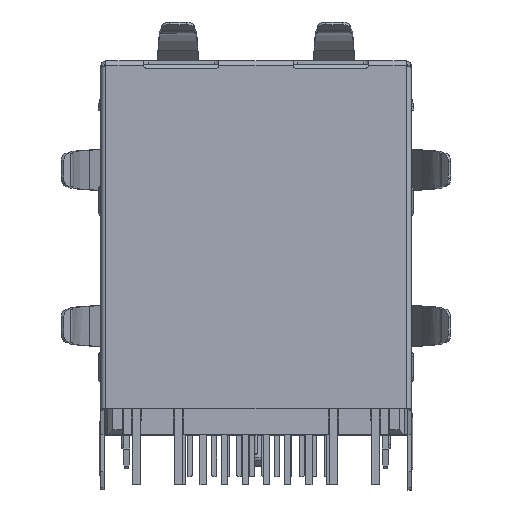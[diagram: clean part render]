
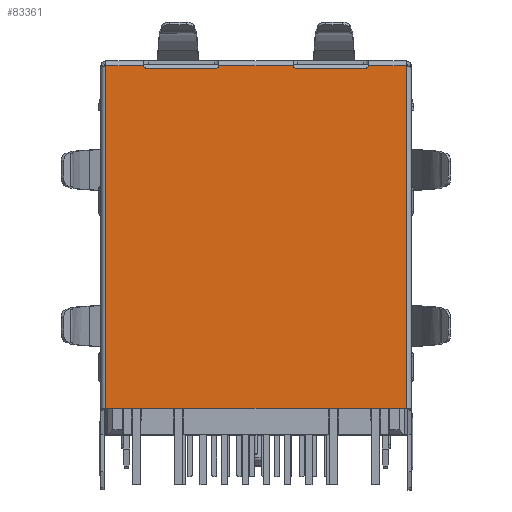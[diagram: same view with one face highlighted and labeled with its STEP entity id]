
A CAD part, top view. The second image highlights one B-rep face of the part: STEP entity #83361.
In plain terms, the highlighted planar face has unit normal (0, 0, 1) as drawn and (0, 0, -1) by its records, which use the part's own axes.
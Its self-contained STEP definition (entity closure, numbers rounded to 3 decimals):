
#332 = VERTEX_POINT ( 'NONE', #71679 ) ;
#5475 = AXIS2_PLACEMENT_3D ( 'NONE', #79900, #132598, #14206 ) ;
#5964 = EDGE_CURVE ( 'NONE', #14874, #59915, #36947, .T. ) ;
#6039 = DIRECTION ( 'NONE',  ( 1., 0., 0. ) ) ;
#7951 = CARTESIAN_POINT ( 'NONE',  ( 0., -71.265, -27.504 ) ) ;
#9998 = VERTEX_POINT ( 'NONE', #94624 ) ;
#10409 = DIRECTION ( 'NONE',  ( 0., 1., 0. ) ) ;
#12087 = DIRECTION ( 'NONE',  ( 0., 1., 0. ) ) ;
#12655 = ORIENTED_EDGE ( 'NONE', *, *, #133773, .F. ) ;
#14206 = DIRECTION ( 'NONE',  ( 0., 1., 0. ) ) ;
#14874 = VERTEX_POINT ( 'NONE', #111581 ) ;
#15720 = EDGE_CURVE ( 'NONE', #332, #92478, #30815, .T. ) ;
#16256 = DIRECTION ( 'NONE',  ( 0., 0., 1. ) ) ;
#20808 = DIRECTION ( 'NONE',  ( -1., 0., 0. ) ) ;
#21362 = CARTESIAN_POINT ( 'NONE',  ( 11.55, -21.75, -27.504 ) ) ;
#22069 = ORIENTED_EDGE ( 'NONE', *, *, #15720, .F. ) ;
#24033 = VERTEX_POINT ( 'NONE', #86243 ) ;
#27540 = CARTESIAN_POINT ( 'NONE',  ( 11.55, -22.05, -27.504 ) ) ;
#28791 = VECTOR ( 'NONE', #170115, 1000. ) ;
#29710 = VERTEX_POINT ( 'NONE', #141176 ) ;
#29851 = DIRECTION ( 'NONE',  ( -1., 0., 0. ) ) ;
#30128 = EDGE_CURVE ( 'NONE', #332, #45988, #126358, .T. ) ;
#30815 = LINE ( 'NONE', #83534, #42067 ) ;
#36154 = CARTESIAN_POINT ( 'NONE',  ( 0., -71.265, -27.504 ) ) ;
#36822 = LINE ( 'NONE', #89525, #117753 ) ;
#36947 = LINE ( 'NONE', #89653, #122928 ) ;
#38624 = AXIS2_PLACEMENT_3D ( 'NONE', #77761, #130474, #12087 ) ;
#42067 = VECTOR ( 'NONE', #136228, 1000. ) ;
#42959 = CIRCLE ( 'NONE', #139561, 0.3 ) ;
#45988 = VERTEX_POINT ( 'NONE', #104354 ) ;
#46577 = ORIENTED_EDGE ( 'NONE', *, *, #129025, .T. ) ;
#47037 = DIRECTION ( 'NONE',  ( 0., -1., 0. ) ) ;
#51876 = EDGE_CURVE ( 'NONE', #29710, #153109, #76102, .T. ) ;
#52338 = ORIENTED_EDGE ( 'NONE', *, *, #5964, .F. ) ;
#52694 = ORIENTED_EDGE ( 'NONE', *, *, #83802, .F. ) ;
#59915 = VERTEX_POINT ( 'NONE', #76341 ) ;
#60653 = DIRECTION ( 'NONE',  ( 0., 1., 0. ) ) ;
#64118 = ORIENTED_EDGE ( 'NONE', *, *, #51876, .F. ) ;
#64698 = LINE ( 'NONE', #117426, #28791 ) ;
#65967 = ORIENTED_EDGE ( 'NONE', *, *, #79223, .T. ) ;
#66801 = VECTOR ( 'NONE', #47037, 1000. ) ;
#68978 = DIRECTION ( 'NONE',  ( 0., 1., 0. ) ) ;
#68984 = CARTESIAN_POINT ( 'NONE',  ( 2.28, -21.92, -27.504 ) ) ;
#69051 = EDGE_CURVE ( 'NONE', #9998, #100044, #64698, .T. ) ;
#70281 = ORIENTED_EDGE ( 'NONE', *, *, #92504, .T. ) ;
#71679 = CARTESIAN_POINT ( 'NONE',  ( 0., -21.915, -27.504 ) ) ;
#71726 = LINE ( 'NONE', #124442, #153229 ) ;
#74559 = AXIS2_PLACEMENT_3D ( 'NONE', #27540, #80247, #132944 ) ;
#76102 = LINE ( 'NONE', #128814, #123436 ) ;
#76243 = CARTESIAN_POINT ( 'NONE',  ( 2.55, -21.75, -27.504 ) ) ;
#76341 = CARTESIAN_POINT ( 'NONE',  ( 11.28, -21.92, -27.504 ) ) ;
#77761 = CARTESIAN_POINT ( 'NONE',  ( 15.55, -22.05, -27.504 ) ) ;
#79223 = EDGE_CURVE ( 'NONE', #128955, #153109, #112704, .T. ) ;
#79900 = CARTESIAN_POINT ( 'NONE',  ( 6.55, -22.05, -27.504 ) ) ;
#79981 = CIRCLE ( 'NONE', #5475, 0.3 ) ;
#80247 = DIRECTION ( 'NONE',  ( 0., 0., 1. ) ) ;
#83361 = ADVANCED_FACE ( 'NONE', ( #101832 ), #154525, .T. ) ;
#83534 = CARTESIAN_POINT ( 'NONE',  ( 0., -22.185, -27.504 ) ) ;
#83802 = EDGE_CURVE ( 'NONE', #89258, #29710, #36822, .T. ) ;
#85233 = VECTOR ( 'NONE', #20808, 1000. ) ;
#86243 = CARTESIAN_POINT ( 'NONE',  ( 15.55, -21.75, -27.504 ) ) ;
#86495 = LINE ( 'NONE', #139177, #85233 ) ;
#88874 = DIRECTION ( 'NONE',  ( 0., 0., -1. ) ) ;
#89258 = VERTEX_POINT ( 'NONE', #141428 ) ;
#89525 = CARTESIAN_POINT ( 'NONE',  ( 19.263, -21.92, -27.504 ) ) ;
#89653 = CARTESIAN_POINT ( 'NONE',  ( 13.522, -21.92, -27.504 ) ) ;
#92478 = VERTEX_POINT ( 'NONE', #155553 ) ;
#92504 = EDGE_CURVE ( 'NONE', #89258, #24033, #113127, .T. ) ;
#94486 = CARTESIAN_POINT ( 'NONE',  ( 18.1, -21.915, -27.504 ) ) ;
#94624 = CARTESIAN_POINT ( 'NONE',  ( 6.55, -21.75, -27.504 ) ) ;
#95527 = LINE ( 'NONE', #148232, #102907 ) ;
#96635 = ORIENTED_EDGE ( 'NONE', *, *, #69051, .T. ) ;
#100044 = VERTEX_POINT ( 'NONE', #76243 ) ;
#101832 = FACE_OUTER_BOUND ( 'NONE', #159861, .T. ) ;
#102907 = VECTOR ( 'NONE', #29851, 1000. ) ;
#104354 = CARTESIAN_POINT ( 'NONE',  ( 0., -1.3, -27.504 ) ) ;
#109708 = EDGE_CURVE ( 'NONE', #24033, #146021, #95527, .T. ) ;
#111581 = CARTESIAN_POINT ( 'NONE',  ( 6.82, -21.92, -27.504 ) ) ;
#112704 = LINE ( 'NONE', #165395, #66801 ) ;
#113127 = CIRCLE ( 'NONE', #38624, 0.3 ) ;
#117426 = CARTESIAN_POINT ( 'NONE',  ( 6.55, -21.75, -27.504 ) ) ;
#117753 = VECTOR ( 'NONE', #142214, 1000. ) ;
#118716 = ORIENTED_EDGE ( 'NONE', *, *, #30128, .T. ) ;
#122928 = VECTOR ( 'NONE', #142344, 1000. ) ;
#123436 = VECTOR ( 'NONE', #10409, 1000. ) ;
#124442 = CARTESIAN_POINT ( 'NONE',  ( 3.443, -21.92, -27.504 ) ) ;
#126358 = LINE ( 'NONE', #7951, #150735 ) ;
#128747 = EDGE_CURVE ( 'NONE', #92478, #158124, #71726, .T. ) ;
#128814 = CARTESIAN_POINT ( 'NONE',  ( 18.1, -22.185, -27.504 ) ) ;
#128955 = VERTEX_POINT ( 'NONE', #170970 ) ;
#129025 = EDGE_CURVE ( 'NONE', #100044, #158124, #42959, .T. ) ;
#130474 = DIRECTION ( 'NONE',  ( 0., 0., 1. ) ) ;
#132598 = DIRECTION ( 'NONE',  ( 0., 0., 1. ) ) ;
#132944 = DIRECTION ( 'NONE',  ( 0., 1., 0. ) ) ;
#133773 = EDGE_CURVE ( 'NONE', #128955, #45988, #86495, .T. ) ;
#134646 = CARTESIAN_POINT ( 'NONE',  ( 2.55, -22.05, -27.504 ) ) ;
#136228 = DIRECTION ( 'NONE',  ( 0., -1., 0. ) ) ;
#139177 = CARTESIAN_POINT ( 'NONE',  ( 0., -1.3, -27.504 ) ) ;
#139561 = AXIS2_PLACEMENT_3D ( 'NONE', #134646, #16256, #68978 ) ;
#141176 = CARTESIAN_POINT ( 'NONE',  ( 18.1, -21.92, -27.504 ) ) ;
#141428 = CARTESIAN_POINT ( 'NONE',  ( 15.82, -21.92, -27.504 ) ) ;
#141563 = DIRECTION ( 'NONE',  ( 0., 1., 0. ) ) ;
#142208 = ORIENTED_EDGE ( 'NONE', *, *, #150242, .T. ) ;
#142214 = DIRECTION ( 'NONE',  ( 1., 0., 0. ) ) ;
#142344 = DIRECTION ( 'NONE',  ( 1., 0., 0. ) ) ;
#146021 = VERTEX_POINT ( 'NONE', #21362 ) ;
#148232 = CARTESIAN_POINT ( 'NONE',  ( 15.55, -21.75, -27.504 ) ) ;
#149052 = CIRCLE ( 'NONE', #74559, 0.3 ) ;
#149413 = ORIENTED_EDGE ( 'NONE', *, *, #128747, .F. ) ;
#150242 = EDGE_CURVE ( 'NONE', #146021, #59915, #149052, .T. ) ;
#150735 = VECTOR ( 'NONE', #60653, 1000. ) ;
#153109 = VERTEX_POINT ( 'NONE', #94486 ) ;
#153229 = VECTOR ( 'NONE', #6039, 1000. ) ;
#154525 = PLANE ( 'NONE',  #161759 ) ;
#155553 = CARTESIAN_POINT ( 'NONE',  ( 0., -21.92, -27.504 ) ) ;
#156883 = ORIENTED_EDGE ( 'NONE', *, *, #109708, .T. ) ;
#158124 = VERTEX_POINT ( 'NONE', #68984 ) ;
#159861 = EDGE_LOOP ( 'NONE', ( #12655, #65967, #64118, #52694, #70281, #156883, #142208, #52338, #168430, #96635, #46577, #149413, #22069, #118716 ) ) ;
#161759 = AXIS2_PLACEMENT_3D ( 'NONE', #36154, #88874, #141563 ) ;
#165395 = CARTESIAN_POINT ( 'NONE',  ( 18.1, -71.265, -27.504 ) ) ;
#167028 = EDGE_CURVE ( 'NONE', #14874, #9998, #79981, .T. ) ;
#168430 = ORIENTED_EDGE ( 'NONE', *, *, #167028, .T. ) ;
#170115 = DIRECTION ( 'NONE',  ( -1., 0., 0. ) ) ;
#170970 = CARTESIAN_POINT ( 'NONE',  ( 18.1, -1.3, -27.504 ) ) ;
